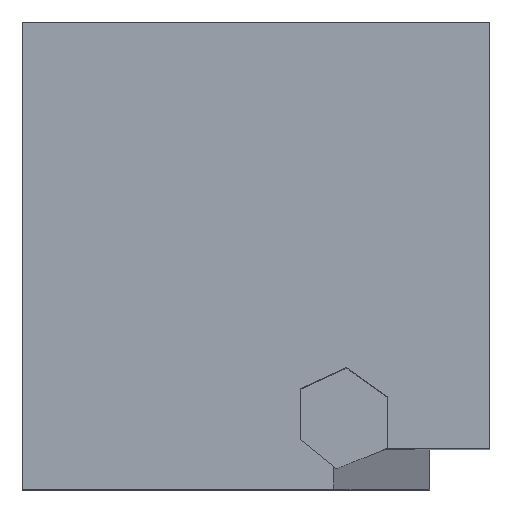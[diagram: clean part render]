
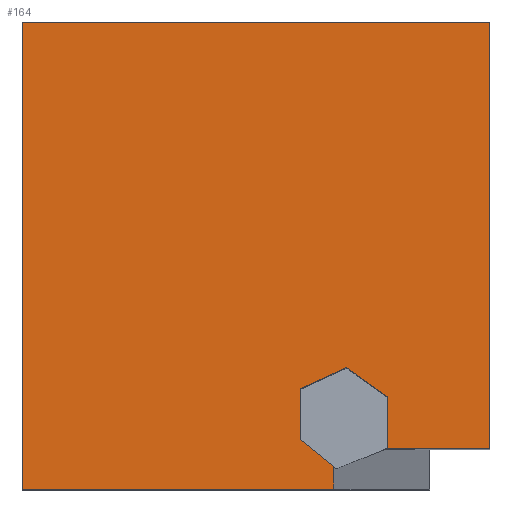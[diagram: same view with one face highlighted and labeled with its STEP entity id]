
A CAD part, top view. The second image highlights one B-rep face of the part: STEP entity #164.
In plain terms, the highlighted planar face has unit normal (0, 0, 1).
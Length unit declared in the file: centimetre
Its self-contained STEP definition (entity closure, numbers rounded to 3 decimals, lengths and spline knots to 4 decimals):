
#1 = CARTESIAN_POINT ( 'NONE',  ( 0., 0., 1000. ) ) ;
#5 = CARTESIAN_POINT ( 'NONE',  ( 782.3126, 88.9093, 1000. ) ) ;
#13 = FACE_OUTER_BOUND ( 'NONE', #779, .T. ) ;
#23 = ORIENTED_EDGE ( 'NONE', *, *, #625, .F. ) ;
#30 = CARTESIAN_POINT ( 'NONE',  ( 666.5824, 48.6819, 1000. ) ) ;
#36 = CARTESIAN_POINT ( 'NONE',  ( 673.1432, 43.4321, 1000. ) ) ;
#40 = VERTEX_POINT ( 'NONE', #828 ) ;
#47 = ORIENTED_EDGE ( 'NONE', *, *, #808, .F. ) ;
#51 = CARTESIAN_POINT ( 'NONE',  ( 0., 1000., 1000. ) ) ;
#70 = CARTESIAN_POINT ( 'NONE',  ( 0., 0., 1000. ) ) ;
#82 = CARTESIAN_POINT ( 'NONE',  ( 693.4103, 260.4444, 1000. ) ) ;
#85 = VECTOR ( 'NONE', #757, 100. ) ;
#111 = ORIENTED_EDGE ( 'NONE', *, *, #396, .F. ) ;
#127 = ORIENTED_EDGE ( 'NONE', *, *, #813, .T. ) ;
#128 = EDGE_CURVE ( 'NONE', #397, #252, #470, .T. ) ;
#143 = DIRECTION ( 'NONE',  ( 0., 1., 0. ) ) ;
#150 = EDGE_CURVE ( 'NONE', #410, #198, #915, .T. ) ;
#152 = ORIENTED_EDGE ( 'NONE', *, *, #128, .T. ) ;
#157 = CARTESIAN_POINT ( 'NONE',  ( 782.3126, 197.4155, 1000. ) ) ;
#164 = ADVANCED_FACE ( 'NONE', ( #13 ), #878, .T. ) ;
#166 = LINE ( 'NONE', #492, #222 ) ;
#173 = EDGE_CURVE ( 'NONE', #501, #521, #166, .T. ) ;
#175 = CARTESIAN_POINT ( 'NONE',  ( 1000., 86.4139, 1000. ) ) ;
#188 = VECTOR ( 'NONE', #544, 100. ) ;
#189 = DIRECTION ( 'NONE',  ( 0., -1., 0. ) ) ;
#198 = VERTEX_POINT ( 'NONE', #568 ) ;
#202 = AXIS2_PLACEMENT_3D ( 'NONE', #486, #401, #482 ) ;
#206 = ORIENTED_EDGE ( 'NONE', *, *, #150, .F. ) ;
#222 = VECTOR ( 'NONE', #805, 100. ) ;
#223 = LINE ( 'NONE', #157, #269 ) ;
#227 = DIRECTION ( 'NONE',  ( 0., 1., 0. ) ) ;
#240 = DIRECTION ( 'NONE',  ( -1., 0., 0. ) ) ;
#248 = EDGE_CURVE ( 'NONE', #523, #40, #647, .T. ) ;
#252 = VERTEX_POINT ( 'NONE', #332 ) ;
#264 = LINE ( 'NONE', #36, #852 ) ;
#269 = VECTOR ( 'NONE', #929, 100. ) ;
#311 = EDGE_CURVE ( 'NONE', #732, #410, #223, .T. ) ;
#317 = ORIENTED_EDGE ( 'NONE', *, *, #248, .F. ) ;
#332 = CARTESIAN_POINT ( 'NONE',  ( 666.5824, 0., 1000. ) ) ;
#337 = EDGE_CURVE ( 'NONE', #487, #397, #683, .T. ) ;
#365 = CARTESIAN_POINT ( 'NONE',  ( 1000., 1000., 1000. ) ) ;
#368 = LINE ( 'NONE', #676, #830 ) ;
#369 = ORIENTED_EDGE ( 'NONE', *, *, #621, .F. ) ;
#388 = VECTOR ( 'NONE', #601, 100. ) ;
#390 = DIRECTION ( 'NONE',  ( -0.909, -0.417, 0. ) ) ;
#396 = EDGE_CURVE ( 'NONE', #892, #732, #368, .T. ) ;
#397 = VERTEX_POINT ( 'NONE', #70 ) ;
#401 = DIRECTION ( 'NONE',  ( 0., 0., 1. ) ) ;
#410 = VERTEX_POINT ( 'NONE', #921 ) ;
#441 = CARTESIAN_POINT ( 'NONE',  ( 594.3744, 214.9673, 1000. ) ) ;
#470 = LINE ( 'NONE', #1, #489 ) ;
#482 = DIRECTION ( 'NONE',  ( 1., 0., 0. ) ) ;
#486 = CARTESIAN_POINT ( 'NONE',  ( 0., 0., 1000. ) ) ;
#487 = VERTEX_POINT ( 'NONE', #729 ) ;
#489 = VECTOR ( 'NONE', #616, 100. ) ;
#492 = CARTESIAN_POINT ( 'NONE',  ( 594.3744, 106.4611, 1000. ) ) ;
#501 = VERTEX_POINT ( 'NONE', #942 ) ;
#516 = VECTOR ( 'NONE', #143, 100. ) ;
#521 = VERTEX_POINT ( 'NONE', #30 ) ;
#523 = VERTEX_POINT ( 'NONE', #175 ) ;
#534 = LINE ( 'NONE', #441, #85 ) ;
#544 = DIRECTION ( 'NONE',  ( 0., -1., 0. ) ) ;
#568 = CARTESIAN_POINT ( 'NONE',  ( 594.3744, 214.9673, 1000. ) ) ;
#569 = ORIENTED_EDGE ( 'NONE', *, *, #337, .T. ) ;
#572 = CARTESIAN_POINT ( 'NONE',  ( 666.5824, 86.4139, 1000. ) ) ;
#582 = LINE ( 'NONE', #572, #699 ) ;
#601 = DIRECTION ( 'NONE',  ( -1., 0., 0. ) ) ;
#616 = DIRECTION ( 'NONE',  ( 1., 0., 0. ) ) ;
#621 = EDGE_CURVE ( 'NONE', #40, #892, #264, .T. ) ;
#625 = EDGE_CURVE ( 'NONE', #521, #252, #582, .T. ) ;
#631 = CARTESIAN_POINT ( 'NONE',  ( 1000., 86.4139, 1000. ) ) ;
#647 = LINE ( 'NONE', #631, #787 ) ;
#656 = LINE ( 'NONE', #51, #388 ) ;
#665 = VERTEX_POINT ( 'NONE', #818 ) ;
#676 = CARTESIAN_POINT ( 'NONE',  ( 782.3126, 88.9093, 1000. ) ) ;
#683 = LINE ( 'NONE', #780, #188 ) ;
#697 = VECTOR ( 'NONE', #390, 100. ) ;
#699 = VECTOR ( 'NONE', #189, 100. ) ;
#718 = ORIENTED_EDGE ( 'NONE', *, *, #741, .T. ) ;
#729 = CARTESIAN_POINT ( 'NONE',  ( 0., 1000., 1000. ) ) ;
#732 = VERTEX_POINT ( 'NONE', #969 ) ;
#735 = DIRECTION ( 'NONE',  ( 0.923, 0.385, 0. ) ) ;
#741 = EDGE_CURVE ( 'NONE', #665, #487, #656, .T. ) ;
#757 = DIRECTION ( 'NONE',  ( 0., -1., 0. ) ) ;
#779 = EDGE_LOOP ( 'NONE', ( #369, #317, #127, #718, #569, #152, #23, #918, #47, #206, #992, #111 ) ) ;
#780 = CARTESIAN_POINT ( 'NONE',  ( 0., 1000., 1000. ) ) ;
#787 = VECTOR ( 'NONE', #240, 100. ) ;
#805 = DIRECTION ( 'NONE',  ( 0.781, -0.625, 0. ) ) ;
#808 = EDGE_CURVE ( 'NONE', #198, #501, #534, .T. ) ;
#813 = EDGE_CURVE ( 'NONE', #523, #665, #908, .T. ) ;
#818 = CARTESIAN_POINT ( 'NONE',  ( 1000., 1000., 1000. ) ) ;
#828 = CARTESIAN_POINT ( 'NONE',  ( 776.3223, 86.4139, 1000. ) ) ;
#830 = VECTOR ( 'NONE', #227, 100. ) ;
#852 = VECTOR ( 'NONE', #735, 100. ) ;
#878 = PLANE ( 'NONE',  #202 ) ;
#892 = VERTEX_POINT ( 'NONE', #5 ) ;
#908 = LINE ( 'NONE', #365, #516 ) ;
#915 = LINE ( 'NONE', #82, #697 ) ;
#918 = ORIENTED_EDGE ( 'NONE', *, *, #173, .F. ) ;
#921 = CARTESIAN_POINT ( 'NONE',  ( 693.4103, 260.4444, 1000. ) ) ;
#929 = DIRECTION ( 'NONE',  ( -0.816, 0.578, 0. ) ) ;
#942 = CARTESIAN_POINT ( 'NONE',  ( 594.3744, 106.4611, 1000. ) ) ;
#969 = CARTESIAN_POINT ( 'NONE',  ( 782.3126, 197.4155, 1000. ) ) ;
#992 = ORIENTED_EDGE ( 'NONE', *, *, #311, .F. ) ;
